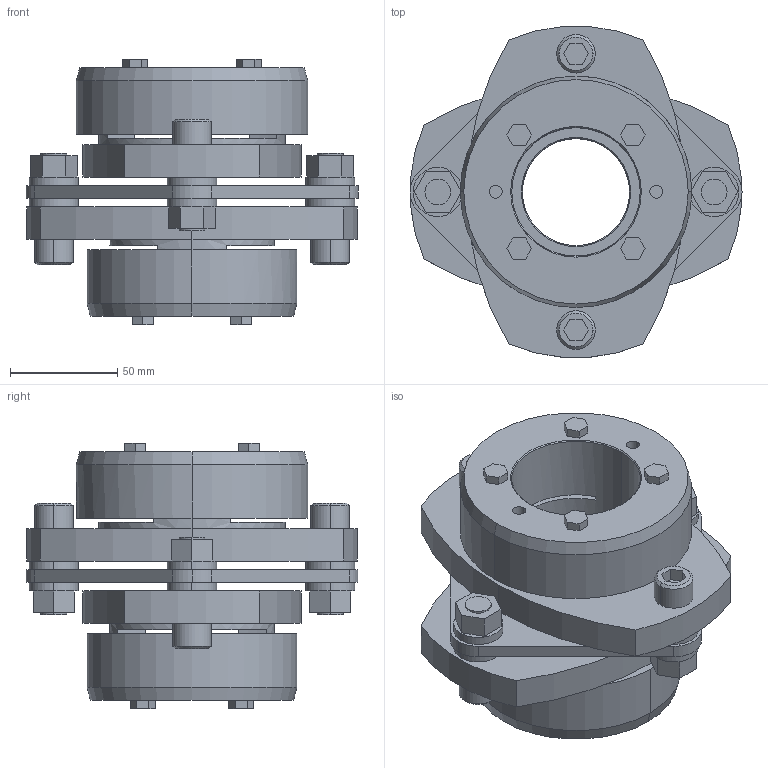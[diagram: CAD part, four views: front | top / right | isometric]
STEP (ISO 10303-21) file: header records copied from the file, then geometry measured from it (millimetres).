
FILE_DESCRIPTION((''),'2;1');
FILE_NAME('LCS-155T7-50×60.stp','2011-09-08T14:28:38',(''),(''),'AutoCAD STEP 2000i','AutoCAD 2000i',', , ');
FILE_SCHEMA(('CONFIG_CONTROL_DESIGN'));
Length unit declared in the file: millimetre
Products named in the file (9): LCS-155T7-50×60; 忣兜1; LC155T7-T060; LC155T7-T055; LC155T7-T050-1; LC155T7-T050; LC155T7-T045-1; LC155T7-T045; LCS155-ITA
Assembly tree (8 placements, depth 2):
  LCS-155T7-50×60
    忣兜1
    LC155T7-T060
    LC155T7-T055
    LC155T7-T050-1
    LC155T7-T050
    LC155T7-T045-1
    LC155T7-T045
    LCS155-ITA
Bounding box: 155 x 154.9 x 124 mm (x, y, z)
Volume: 814058.5 mm3; surface area: 146589.3 mm2
Topology: 1 solids, 1 shells, 246 faces, 606 edges, 398 vertices
Faces by surface type: plane 146, cylinder 80, cone 20
Entity records: 7527 total; most frequent: DIRECTION 1314, CARTESIAN_POINT 1259, ORIENTED_EDGE 1212, EDGE_CURVE 606, AXIS2_PLACEMENT_3D 453, VECTOR 408, LINE 408, VERTEX_POINT 398
